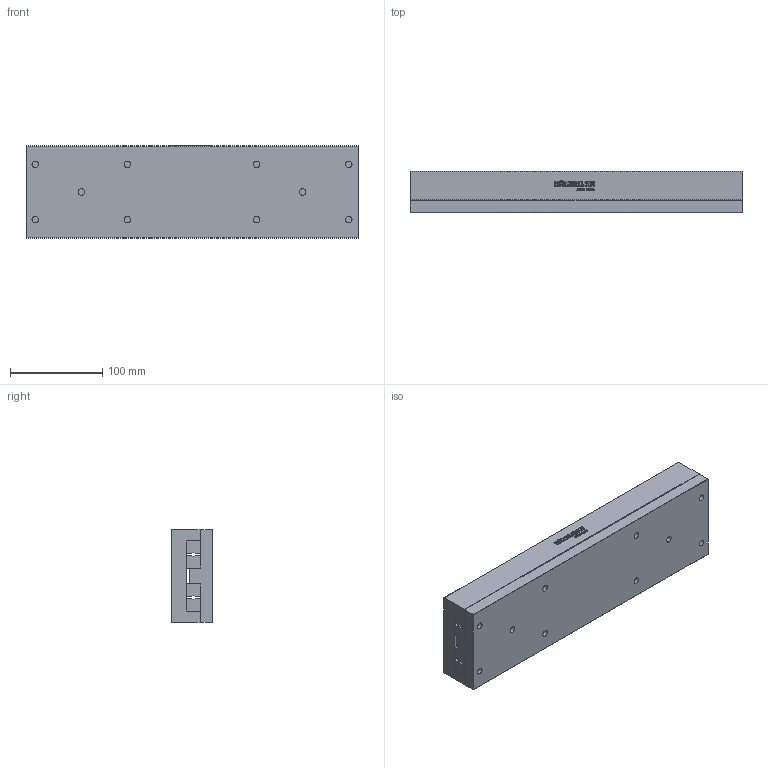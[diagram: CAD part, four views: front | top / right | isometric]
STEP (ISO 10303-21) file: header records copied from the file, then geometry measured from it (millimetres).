
FILE_DESCRIPTION(/* description */ ('STEP AP214'),/* implementation_level */ '2;1');
FILE_NAME(/* name */ 'NK 6-360-B(0)',/* time_stamp */ '2025-04-22T17:50:57+02:00',/* author */ ('License CC BY-ND 4.0'),/* organization */ ('CADENAS'),/* preprocessor_version */ 'ST-DEVELOPER v19.3',/* originating_system */ 'PARTsolutions',/* authorisation */ ' ');
FILE_SCHEMA (('AUTOMOTIVE_DESIGN {1 0 10303 214 3 1 1}'));
Length unit declared in the file: millimetre
Products named in the file (3): NK 6-360-B(0); NK 6-360-B_1; NK 6-360-B_2
Assembly tree (2 placements, depth 2):
  NK 6-360-B(0)
    NK 6-360-B_1
    NK 6-360-B_2
Bounding box: 360 x 45 x 100 mm (x, y, z)
Volume: 1548050.4 mm3; surface area: 255860.4 mm2
Topology: 2 solids, 2 shells, 635 faces, 1752 edges, 1148 vertices
Faces by surface type: cylinder 324, plane 287, cone 24
Full cylindrical faces by diameter (mm): 4.917 x12, 7 x10, 11 x10
Entity records: 20157 total; most frequent: DIRECTION 3644, CARTESIAN_POINT 3458, ORIENTED_EDGE 3368, EDGE_CURVE 1684, AXIS2_PLACEMENT_3D 1322, VERTEX_POINT 1136, LINE 1000, VECTOR 1000
